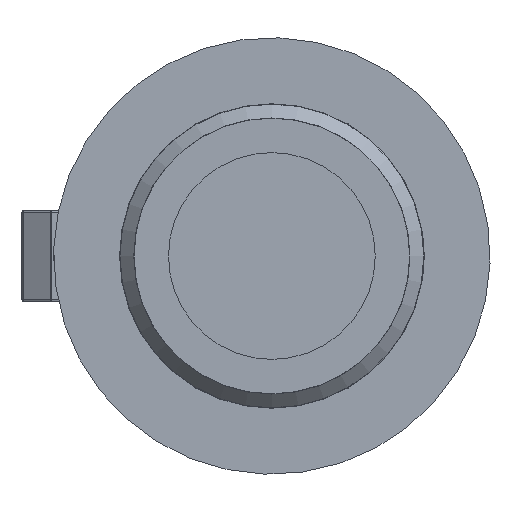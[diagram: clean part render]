
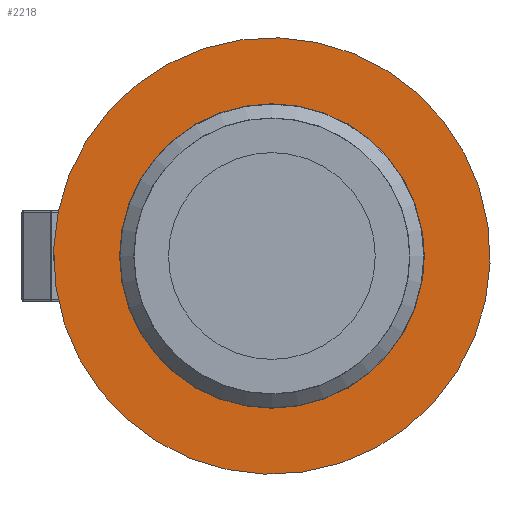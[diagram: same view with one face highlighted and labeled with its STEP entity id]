
A CAD part, front view. The second image highlights one B-rep face of the part: STEP entity #2218.
In plain terms, the highlighted planar face has unit normal (0, -1, 0).
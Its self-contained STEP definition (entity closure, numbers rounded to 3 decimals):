
#172 = CARTESIAN_POINT ( 'NONE',  ( 0., 204.25, 0. ) ) ;
#372 = CARTESIAN_POINT ( 'NONE',  ( 0., 204.25, 0. ) ) ;
#543 = VERTEX_POINT ( 'NONE', #893 ) ;
#700 = DIRECTION ( 'NONE',  ( -0.928, 0., 0.372 ) ) ;
#877 = AXIS2_PLACEMENT_3D ( 'NONE', #172, #1826, #5126 ) ;
#893 = CARTESIAN_POINT ( 'NONE',  ( -17.634, 204.25, 7.073 ) ) ;
#1271 = DIRECTION ( 'NONE',  ( 0., -1., 0. ) ) ;
#1352 = ORIENTED_EDGE ( 'NONE', *, *, #1927, .F. ) ;
#1806 = ORIENTED_EDGE ( 'NONE', *, *, #4885, .F. ) ;
#1826 = DIRECTION ( 'NONE',  ( 0., 1., 0. ) ) ;
#1885 = AXIS2_PLACEMENT_3D ( 'NONE', #372, #4045, #700 ) ;
#1927 = EDGE_CURVE ( 'NONE', #3399, #3399, #2050, .T. ) ;
#1946 = EDGE_LOOP ( 'NONE', ( #1352 ) ) ;
#2050 = CIRCLE ( 'NONE', #4140, 13.25 ) ;
#2091 = DIRECTION ( 'NONE',  ( 0., 0., 1. ) ) ;
#2218 = ADVANCED_FACE ( 'NONE', ( #3471, #3821 ), #3445, .F. ) ;
#3046 = CARTESIAN_POINT ( 'NONE',  ( 0., 204.25, 13.25 ) ) ;
#3399 = VERTEX_POINT ( 'NONE', #3046 ) ;
#3445 = PLANE ( 'NONE',  #877 ) ;
#3471 = FACE_BOUND ( 'NONE', #1946, .T. ) ;
#3771 = EDGE_LOOP ( 'NONE', ( #1806 ) ) ;
#3821 = FACE_OUTER_BOUND ( 'NONE', #3771, .T. ) ;
#4045 = DIRECTION ( 'NONE',  ( 0., 1., 0. ) ) ;
#4140 = AXIS2_PLACEMENT_3D ( 'NONE', #5055, #1271, #2091 ) ;
#4667 = CIRCLE ( 'NONE', #1885, 19. ) ;
#4885 = EDGE_CURVE ( 'NONE', #543, #543, #4667, .T. ) ;
#5055 = CARTESIAN_POINT ( 'NONE',  ( 0., 204.25, 0. ) ) ;
#5126 = DIRECTION ( 'NONE',  ( -0.928, 0., 0.372 ) ) ;
